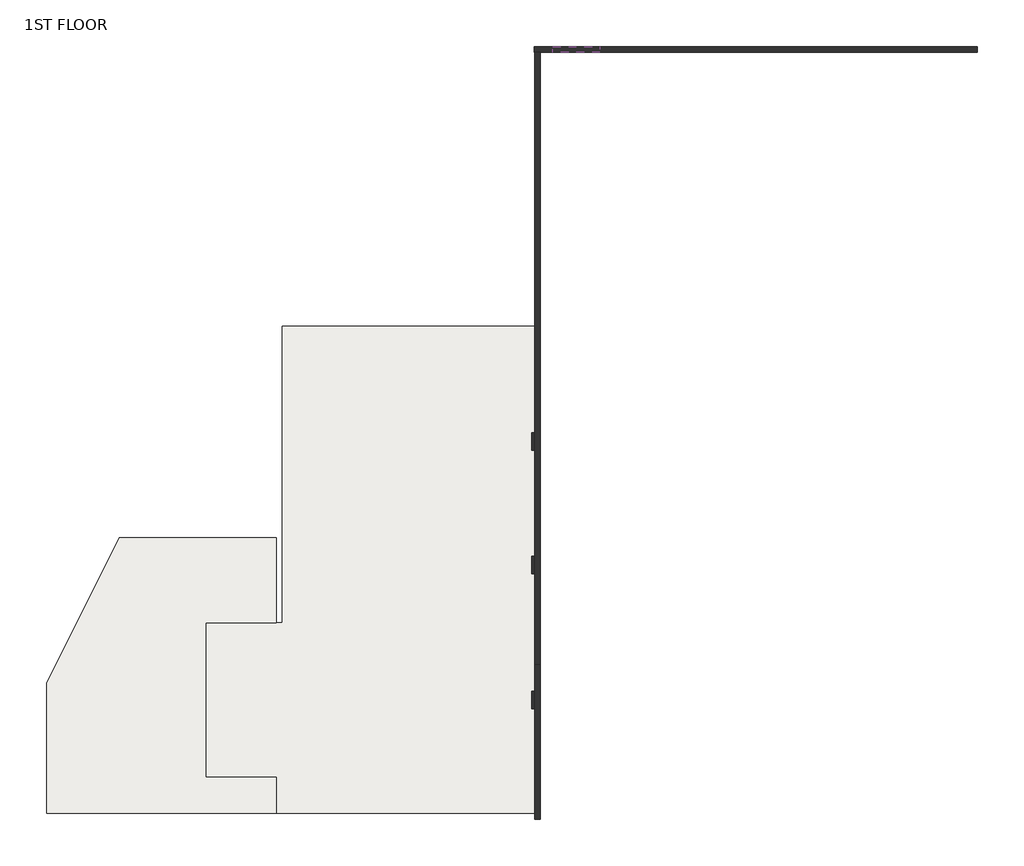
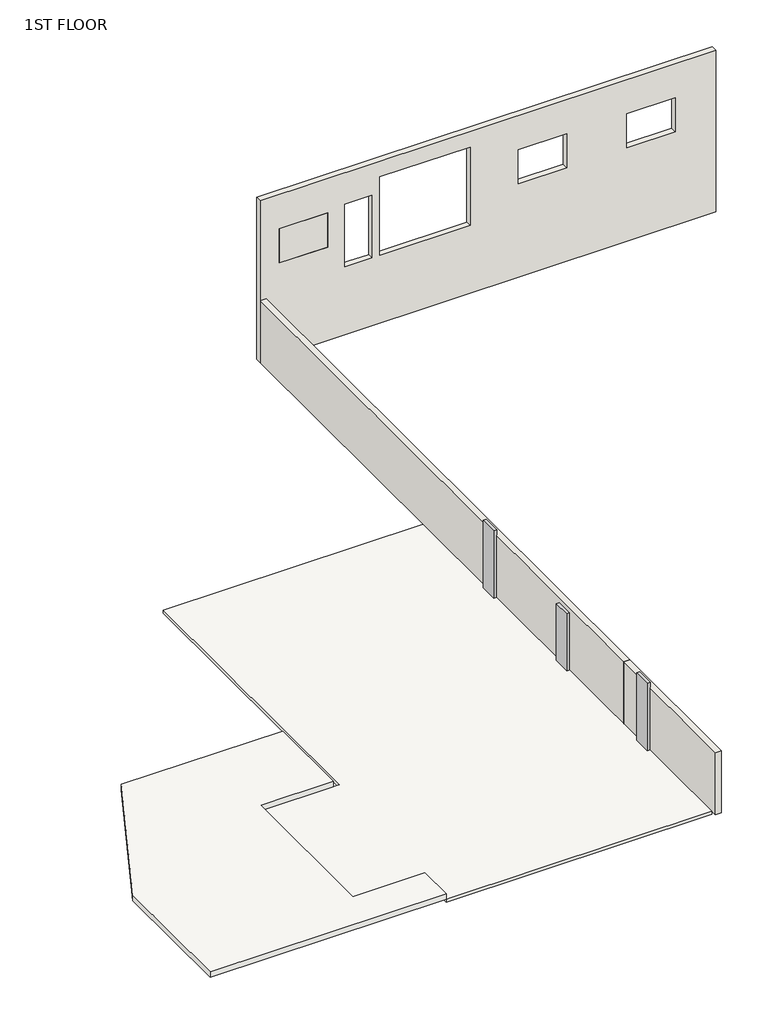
# One storey: 4 walls, 3 columns, 2 slabs.
"""IFC4 building model written with IfcOpenShell, lengths in millimetres."""

from ifc_helpers import new_model, si_unit, frame, origin, place, context, project, spatial, polyline, outline, extrude, faceted_brep, element, save

model = new_model("IFC4")

# Units and contexts
model_context = context("Model", 3, world=origin())
ifc_project = project(units=[si_unit("LENGTHUNIT", "METRE", prefix="MILLI")], contexts=[model_context])

# Site, building, storey
site = spatial("IfcSite", under=ifc_project)
building = spatial("IfcBuilding", under=site)
storey = spatial("IfcBuildingStorey", under=building, Name="1ST FLOOR", Elevation=1244.6)

# Columns
placement = place(None, origin())
element("IfcColumn", 1, ObjectType="Rectangular Column : 24\" x 4\"", at=placement, inside=storey, context=model_context, shape_type="SweptSolid", body=[
    extrude(outline(polyline([(26626.2358625, 11605.3402655), (26524.6358625, 11605.3402655), (26524.6358625, 12214.9402655), (26626.2358625, 12214.9402655), (26626.2358625, 11605.3402655)])), frame((0.0, 0.0, 1244.6), z_axis=(0.0, 0.0, 1.0), x_axis=(1.0, 0.0, 0.0)), (0.0, 0.0, 1.0), 2413.0),
])
element("IfcColumn", 2, ObjectType="Rectangular Column : 24\" x 4\"", at=placement, inside=storey, context=model_context, shape_type="SweptSolid", body=[
    extrude(outline(polyline([(26626.2358625, 16291.6402655), (26524.6358625, 16291.6402655), (26524.6358625, 16901.2402655), (26626.2358625, 16901.2402655), (26626.2358625, 16291.6402655)])), frame((0.0, 0.0, 1244.6), z_axis=(0.0, 0.0, 1.0), x_axis=(1.0, 0.0, 0.0)), (0.0, 0.0, 1.0), 2032.0),
])
element("IfcColumn", 3, ObjectType="Rectangular Column : 24\" x 4\"", at=placement, inside=storey, context=model_context, shape_type="SweptSolid", body=[
    extrude(outline(polyline([(26626.2358625, 20558.8402655), (26524.6358625, 20558.8402655), (26524.6358625, 21168.4402655), (26626.2358625, 21168.4402655), (26626.2358625, 20558.8402655)])), frame((0.0, 0.0, 1244.6), z_axis=(0.0, 0.0, 1.0), x_axis=(1.0, 0.0, 0.0)), (0.0, 0.0, 1.0), 2413.0),
])

# Slabs
element("IfcSlab", 4, ObjectType="4\" Cast-in-Place Concrete", at=placement, inside=storey, context=model_context, shape_type="SweptSolid", body=[
    extrude(outline(polyline([(15237.5108625, 9233.8481915), (15237.5108625, 14593.2481915), (17879.1108625, 14593.2481915), (17879.1108625, 24851.4402655), (26626.2358625, 24851.4402655), (26626.2358625, 7998.5402655), (17675.9108625, 7998.5402655), (17675.9108625, 9233.8481915), (15237.5108625, 9233.8481915)])), frame((0.0, 0.0, 1143.0), z_axis=(0.0, 0.0, 1.0), x_axis=(1.0, 0.0, 0.0)), (0.0, 0.0, 1.0), 101.6),
])
element("IfcSlab", 5, ObjectType="8\" Cast-in-Place Concrete", at=placement, inside=storey, context=model_context, shape_type="SweptSolid", body=[
    extrude(outline(polyline([(12249.5819994, 17539.6481915), (17675.9108625, 17539.6481915), (17675.9108625, 14593.2481915), (15237.5108625, 14593.2481915), (15237.5108625, 9233.8481915), (17675.9108625, 9233.8481915), (17675.9108625, 7998.5402655), (9725.7108625, 7998.5402655), (9725.7108625, 12497.7007903), (12249.5819994, 17539.6481915)])), frame((0.0, 0.0, 1244.6), z_axis=(0.0, 0.0, 1.0), x_axis=(1.0, 0.0, 0.0)), (0.0, 0.0, 1.0), 203.2),
])

# Walls
element("IfcWall", 6, ObjectType="Generic - 8\"", at=placement, inside=storey, context=model_context, shape_type="Brep", body=[
    faceted_brep([(41958.3108625, 34541.5402655, 1244.6), (26616.7108625, 34541.5402655, 1244.6), (26616.7108625, 34541.5402655, 7010.4), (41958.3108625, 34541.5402655, 7010.4), (41958.3108625, 34541.5402655, 3657.6), (40596.2358625, 34541.5402655, 4572.0), (40596.2358625, 34541.5402655, 5791.2), (38970.6358625, 34541.5402655, 5791.2), (38970.6358625, 34541.5402655, 4572.0), (36938.6358625, 34541.5402655, 4572.0), (36938.6358625, 34541.5402655, 5791.2), (35313.0358625, 34541.5402655, 5791.2), (35313.0358625, 34541.5402655, 4572.0), (30639.4358625, 34541.5402655, 6451.6), (30639.4358625, 34541.5402655, 3657.6), (33687.4358625, 34541.5402655, 3657.6), (33687.4358625, 34541.5402655, 6451.6), (29471.0358625, 34541.5402655, 5892.8), (29471.0358625, 34541.5402655, 3657.6), (30385.4358625, 34541.5402655, 3657.6), (30385.4358625, 34541.5402655, 5892.8), (28886.8358625, 34541.5402655, 4572.0), (28886.8358625, 34541.5402655, 5791.2), (27261.2358625, 34541.5402655, 5791.2), (27261.2358625, 34541.5402655, 4572.0), (26616.7108625, 34338.3402655, 1244.6), (41958.3108625, 34338.3402655, 1244.6), (41958.3108625, 34338.3402655, 7010.4), (26616.7108625, 34338.3402655, 7010.4), (26616.7108625, 34338.3402655, 3657.6), (40596.2358625, 34338.3402655, 5791.2), (40596.2358625, 34338.3402655, 4572.0), (38970.6358625, 34338.3402655, 4572.0), (38970.6358625, 34338.3402655, 5791.2), (36938.6358625, 34338.3402655, 5791.2), (36938.6358625, 34338.3402655, 4572.0), (35313.0358625, 34338.3402655, 4572.0), (35313.0358625, 34338.3402655, 5791.2), (30639.4358625, 34338.3402655, 3657.6), (30639.4358625, 34338.3402655, 6451.6), (33687.4358625, 34338.3402655, 6451.6), (33687.4358625, 34338.3402655, 3657.6), (29471.0358625, 34338.3402655, 3657.6), (29471.0358625, 34338.3402655, 5892.8), (30385.4358625, 34338.3402655, 5892.8), (30385.4358625, 34338.3402655, 3657.6), (28886.8358625, 34338.3402655, 5791.2), (28886.8358625, 34338.3402655, 4572.0), (27261.2358625, 34338.3402655, 4572.0), (27261.2358625, 34338.3402655, 5791.2), (41958.3108625, 34439.9402655, 7010.4)], [[[0, 1, 2, 3, 4], [5, 6, 7, 8], [9, 10, 11, 12], [13, 14, 15, 16], [17, 18, 19, 20], [21, 22, 23, 24]], [[25, 26, 27, 28, 29], [30, 31, 32, 33], [34, 35, 36, 37], [38, 39, 40, 41], [42, 43, 44, 45], [46, 47, 48, 49]], [[1, 0, 26, 25]], [[3, 2, 28, 27, 50]], [[30, 6, 5, 31]], [[31, 5, 8, 32]], [[32, 8, 7, 33]], [[6, 30, 33, 7]], [[34, 10, 9, 35]], [[35, 9, 12, 36]], [[36, 12, 11, 37]], [[10, 34, 37, 11]], [[46, 22, 21, 47]], [[47, 21, 24, 48]], [[48, 24, 23, 49]], [[22, 46, 49, 23]], [[13, 39, 38, 14]], [[14, 38, 41, 15]], [[15, 41, 40, 16]], [[39, 13, 16, 40]], [[42, 18, 17, 43]], [[43, 17, 20, 44]], [[19, 45, 44, 20]], [[18, 42, 45, 19]], [[3, 50, 27, 26, 0, 4]], [[2, 1, 25, 29, 28]]]),
])
element("IfcWall", 7, ObjectType="Generic - 8\"", at=placement, inside=storey, context=model_context, shape_type="SweptSolid", body=[
    extrude(outline(polyline([(28886.8358625, 34541.5402655), (28886.8358625, 34338.3402655), (27261.2358625, 34338.3402655), (27261.2358625, 34541.5402655), (28886.8358625, 34541.5402655)])), frame((0.0, 0.0, 4572.0), z_axis=(0.0, 0.0, 1.0), x_axis=(1.0, 0.0, 0.0)), (0.0, 0.0, 1.0), 1219.2),
])
element("IfcWall", 8, ObjectType="Generic - 8\" 2", at=placement, inside=storey, context=model_context, shape_type="Brep", body=[
    faceted_brep([(26626.2358625, 34338.3402655, 1244.6), (26626.2358625, 21168.4402655, 1244.6), (26626.2358625, 20558.8402655, 1244.6), (26626.2358625, 16901.2402655, 1244.6), (26626.2358625, 16291.6402655, 1244.6), (26626.2358625, 13129.3402655, 1244.6), (26626.2358625, 13129.3402655, 3454.4), (26626.2358625, 34338.3402655, 3454.4), (26819.9108625, 34338.3402655, 1244.6), (26819.9108625, 34338.3402655, 3454.4), (26819.9108625, 13129.3402655, 3454.4), (26819.9108625, 13129.3402655, 1244.6), (26819.9108625, 13332.5402655, 1244.6)], [[[0, 1, 2, 3, 4, 5, 6, 7]], [[8, 9, 10, 11, 12]], [[5, 4, 3, 2, 1, 0, 8, 12, 11]], [[7, 6, 10, 9]], [[0, 7, 9, 8]], [[6, 5, 11, 10]]]),
])
element("IfcWall", 9, ObjectType="Generic - 8\" 2", at=placement, inside=storey, context=model_context, shape_type="Brep", body=[
    faceted_brep([(26626.2358625, 13129.3402655, 1244.6), (26626.2358625, 12214.9402655, 1244.6), (26626.2358625, 11605.3402655, 1244.6), (26626.2358625, 7795.3402655, 1244.6), (26626.2358625, 7795.3402655, 3454.4), (26626.2358625, 13129.3402655, 3454.4), (26819.9108625, 13129.3402655, 1244.6), (26819.9108625, 13129.3402655, 3454.4), (26819.9108625, 7795.3402655, 3454.4), (26819.9108625, 7795.3402655, 1244.6)], [[[0, 1, 2, 3, 4, 5]], [[6, 7, 8, 9]], [[3, 2, 1, 0, 6, 9]], [[5, 4, 8, 7]], [[4, 3, 9, 8]], [[0, 5, 7, 6]]]),
])

save(model, "model.ifc")
